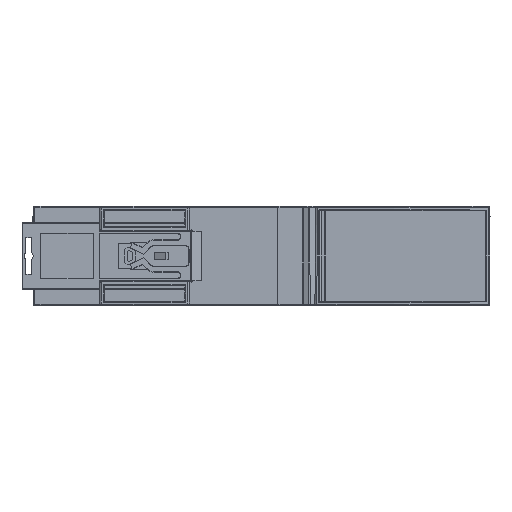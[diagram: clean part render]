
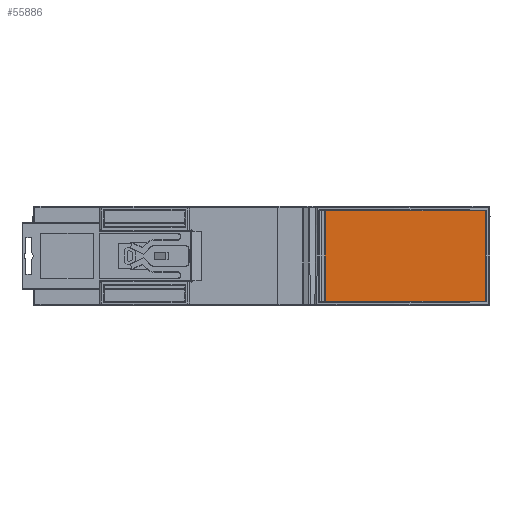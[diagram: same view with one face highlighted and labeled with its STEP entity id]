
A CAD part, left-side view. The second image highlights one B-rep face of the part: STEP entity #55886.
In plain terms, the highlighted planar face has unit normal (-1, 0, 0).
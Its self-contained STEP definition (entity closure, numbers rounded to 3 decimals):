
#1036 = DIRECTION ( 'NONE',  ( 0., 0., -1. ) ) ;
#3383 = VECTOR ( 'NONE', #72579, 1000. ) ;
#4980 = EDGE_CURVE ( 'NONE', #51568, #42488, #41835, .T. ) ;
#5949 = CARTESIAN_POINT ( 'NONE',  ( -48.25, 139.498, 25.702 ) ) ;
#8210 = VECTOR ( 'NONE', #1036, 1000. ) ;
#11773 = PLANE ( 'NONE',  #33141 ) ;
#12574 = CARTESIAN_POINT ( 'NONE',  ( -48.25, 200., 0. ) ) ;
#13224 = CARTESIAN_POINT ( 'NONE',  ( -48.25, 139.498, 25.702 ) ) ;
#13359 = ORIENTED_EDGE ( 'NONE', *, *, #4980, .F. ) ;
#15568 = CARTESIAN_POINT ( 'NONE',  ( -48.25, 182.701, 1.299 ) ) ;
#16226 = CARTESIAN_POINT ( 'NONE',  ( -48.25, 139.498, 1.298 ) ) ;
#17248 = ORIENTED_EDGE ( 'NONE', *, *, #48541, .F. ) ;
#19745 = CARTESIAN_POINT ( 'NONE',  ( -48.25, 139.498, 1.298 ) ) ;
#22180 = VECTOR ( 'NONE', #39578, 1000. ) ;
#25154 = DIRECTION ( 'NONE',  ( -1., 0., 0. ) ) ;
#25562 = FACE_OUTER_BOUND ( 'NONE', #39320, .T. ) ;
#29040 = VERTEX_POINT ( 'NONE', #5949 ) ;
#29991 = VECTOR ( 'NONE', #66277, 1000. ) ;
#33141 = AXIS2_PLACEMENT_3D ( 'NONE', #12574, #25154, #50007 ) ;
#39320 = EDGE_LOOP ( 'NONE', ( #61665, #17248, #13359, #74385 ) ) ;
#39578 = DIRECTION ( 'NONE',  ( 0., 0., 1. ) ) ;
#41313 = EDGE_CURVE ( 'NONE', #42818, #29040, #60403, .T. ) ;
#41835 = LINE ( 'NONE', #16226, #29991 ) ;
#42488 = VERTEX_POINT ( 'NONE', #72065 ) ;
#42818 = VERTEX_POINT ( 'NONE', #50988 ) ;
#48541 = EDGE_CURVE ( 'NONE', #42488, #42818, #59930, .T. ) ;
#50007 = DIRECTION ( 'NONE',  ( 0., 0., 1. ) ) ;
#50988 = CARTESIAN_POINT ( 'NONE',  ( -48.25, 182.702, 25.701 ) ) ;
#51568 = VERTEX_POINT ( 'NONE', #19745 ) ;
#55886 = ADVANCED_FACE ( 'NONE', ( #25562 ), #11773, .T. ) ;
#59930 = LINE ( 'NONE', #15568, #22180 ) ;
#60403 = LINE ( 'NONE', #66096, #3383 ) ;
#61665 = ORIENTED_EDGE ( 'NONE', *, *, #41313, .F. ) ;
#64612 = EDGE_CURVE ( 'NONE', #29040, #51568, #68161, .T. ) ;
#66096 = CARTESIAN_POINT ( 'NONE',  ( -48.25, 182.701, 25.701 ) ) ;
#66277 = DIRECTION ( 'NONE',  ( 0., 1., 0. ) ) ;
#68161 = LINE ( 'NONE', #13224, #8210 ) ;
#72065 = CARTESIAN_POINT ( 'NONE',  ( -48.25, 182.702, 1.299 ) ) ;
#72579 = DIRECTION ( 'NONE',  ( 0., -1., 0. ) ) ;
#74385 = ORIENTED_EDGE ( 'NONE', *, *, #64612, .F. ) ;
